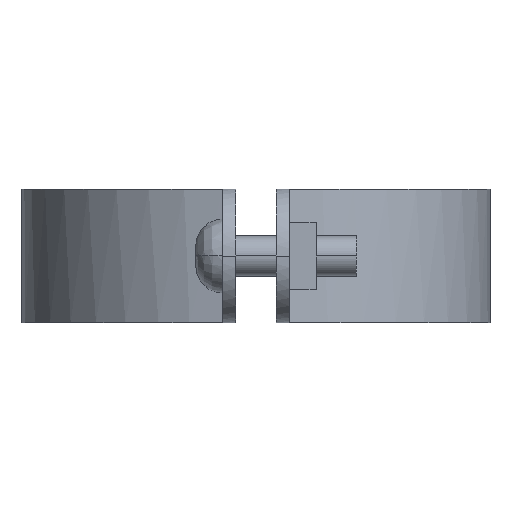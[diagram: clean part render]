
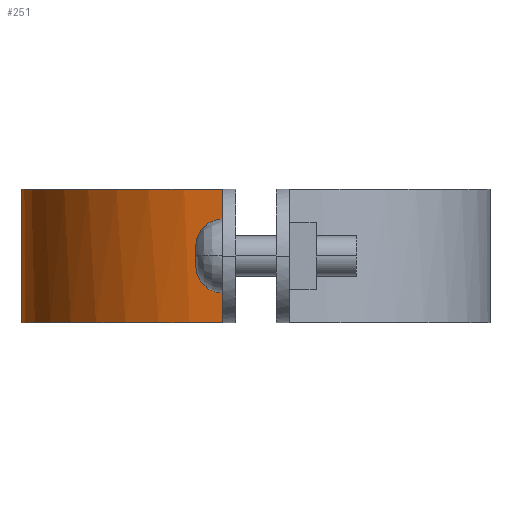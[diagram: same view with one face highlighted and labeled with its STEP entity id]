
A CAD part, left-side view. The second image highlights one B-rep face of the part: STEP entity #251.
In plain terms, the highlighted free-form (B-spline) face has degree [3, 1] with [4, 2] control points.
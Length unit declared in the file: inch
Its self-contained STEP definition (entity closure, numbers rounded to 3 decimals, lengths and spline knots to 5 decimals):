
#251=ADVANCED_FACE('',(#499),#500,.T.);
#499=FACE_OUTER_BOUND('',#931,.T.);
#500=B_SPLINE_SURFACE_WITH_KNOTS('',3,1,((#932,#933),(#934,#935),(#936,#937),(#938,#939)),.UNSPECIFIED.,.F.,.F.,.F.,(4,4),(2,2),(-1.0,-0.0),(0.0,1.25),.UNSPECIFIED.);
#931=EDGE_LOOP('',(#1717,#1718,#1719,#1720));
#932=CARTESIAN_POINT('',(2.87299,4.47534,0.0));
#933=CARTESIAN_POINT('',(2.87299,4.47534,1.25));
#934=CARTESIAN_POINT('',(1.78635,4.47534,0.0));
#935=CARTESIAN_POINT('',(1.78635,4.47534,1.25));
#936=CARTESIAN_POINT('',(0.86466,3.67713,0.0));
#937=CARTESIAN_POINT('',(0.86466,3.67713,1.25));
#938=CARTESIAN_POINT('',(0.70943,2.60162,0.0));
#939=CARTESIAN_POINT('',(0.70943,2.60162,1.25));
#1717=ORIENTED_EDGE('',*,*,#2143,.T.);
#1718=ORIENTED_EDGE('',*,*,#2012,.F.);
#1719=ORIENTED_EDGE('',*,*,#1989,.T.);
#1720=ORIENTED_EDGE('',*,*,#2144,.T.);
#1989=EDGE_CURVE('',#2281,#2293,#2295,.T.);
#2012=EDGE_CURVE('',#2281,#2333,#2334,.T.);
#2143=EDGE_CURVE('',#2522,#2333,#2523,.T.);
#2144=EDGE_CURVE('',#2293,#2522,#2524,.T.);
#2281=VERTEX_POINT('',#2746);
#2293=VERTEX_POINT('',#2766);
#2295=B_SPLINE_CURVE_WITH_KNOTS('',3,(#2769,#2770,#2771,#2772),.UNSPECIFIED.,.F.,.F.,(4,4),(-1.0,-0.0),.UNSPECIFIED.);
#2333=VERTEX_POINT('',#2842);
#2334=LINE('',#2843,#2844);
#2522=VERTEX_POINT('',#3177);
#2523=B_SPLINE_CURVE_WITH_KNOTS('',3,(#3178,#3179,#3180,#3181),.UNSPECIFIED.,.F.,.F.,(4,4),(0.0,1.0),.UNSPECIFIED.);
#2524=LINE('',#3182,#3183);
#2746=CARTESIAN_POINT('',(2.87299,4.47534,0.00012));
#2766=CARTESIAN_POINT('',(0.70943,2.60162,0.00012));
#2769=CARTESIAN_POINT('',(2.87299,4.47534,0.00012));
#2770=CARTESIAN_POINT('',(1.78635,4.47534,0.00012));
#2771=CARTESIAN_POINT('',(0.86466,3.67713,0.00012));
#2772=CARTESIAN_POINT('',(0.70943,2.60162,0.00012));
#2842=CARTESIAN_POINT('',(2.87299,4.47534,1.24992));
#2843=CARTESIAN_POINT('',(2.87299,4.47534,0.0));
#2844=VECTOR('',#3362,1.0);
#3177=CARTESIAN_POINT('',(0.70943,2.60162,1.24992));
#3178=CARTESIAN_POINT('',(0.70943,2.60162,1.24992));
#3179=CARTESIAN_POINT('',(0.86466,3.67713,1.24992));
#3180=CARTESIAN_POINT('',(1.78635,4.47534,1.24992));
#3181=CARTESIAN_POINT('',(2.87299,4.47534,1.24992));
#3182=CARTESIAN_POINT('',(0.70943,2.60162,0.0));
#3183=VECTOR('',#3442,1.0);
#3362=DIRECTION('',(0.0,0.0,1.0));
#3442=DIRECTION('',(0.0,0.0,1.0));
